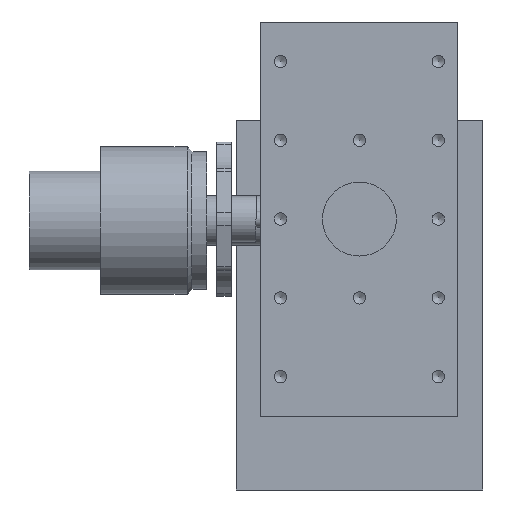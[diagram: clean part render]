
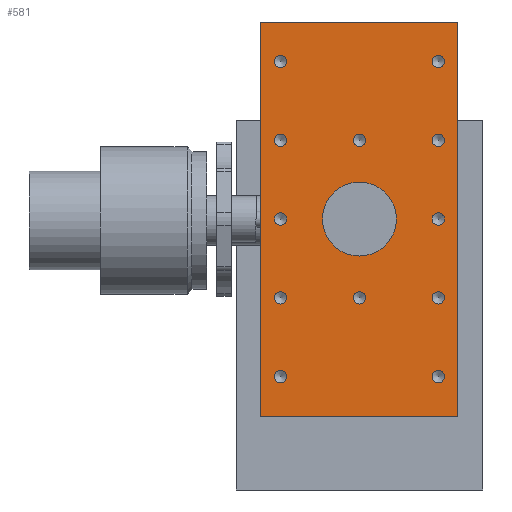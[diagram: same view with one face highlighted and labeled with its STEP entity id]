
A CAD part, front view. The second image highlights one B-rep face of the part: STEP entity #581.
In plain terms, the highlighted planar face has unit normal (0, -1, 0).
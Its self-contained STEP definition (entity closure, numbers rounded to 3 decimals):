
#581 = ADVANCED_FACE( '', ( #1225, #1226, #1227, #1228, #1229, #1230, #1231, #1232, #1233, #1234, #1235, #1236, #1237, #1238 ), #1239, .T. );
#1225 = FACE_OUTER_BOUND( '', #1892, .T. );
#1226 = FACE_BOUND( '', #1893, .T. );
#1227 = FACE_BOUND( '', #1894, .T. );
#1228 = FACE_BOUND( '', #1895, .T. );
#1229 = FACE_BOUND( '', #1896, .T. );
#1230 = FACE_BOUND( '', #1897, .T. );
#1231 = FACE_BOUND( '', #1898, .T. );
#1232 = FACE_BOUND( '', #1899, .T. );
#1233 = FACE_BOUND( '', #1900, .T. );
#1234 = FACE_BOUND( '', #1901, .T. );
#1235 = FACE_BOUND( '', #1902, .T. );
#1236 = FACE_BOUND( '', #1903, .T. );
#1237 = FACE_BOUND( '', #1904, .T. );
#1238 = FACE_BOUND( '', #1905, .T. );
#1239 = PLANE( '', #1906 );
#1892 = EDGE_LOOP( '', ( #3406, #3407, #3408, #3409 ) );
#1893 = EDGE_LOOP( '', ( #3410 ) );
#1894 = EDGE_LOOP( '', ( #3411 ) );
#1895 = EDGE_LOOP( '', ( #3412 ) );
#1896 = EDGE_LOOP( '', ( #3413 ) );
#1897 = EDGE_LOOP( '', ( #3414 ) );
#1898 = EDGE_LOOP( '', ( #3415 ) );
#1899 = EDGE_LOOP( '', ( #3416 ) );
#1900 = EDGE_LOOP( '', ( #3417 ) );
#1901 = EDGE_LOOP( '', ( #3418 ) );
#1902 = EDGE_LOOP( '', ( #3419 ) );
#1903 = EDGE_LOOP( '', ( #3420 ) );
#1904 = EDGE_LOOP( '', ( #3421 ) );
#1905 = EDGE_LOOP( '', ( #3422 ) );
#1906 = AXIS2_PLACEMENT_3D( '', #3423, #3424, #3425 );
#3406 = ORIENTED_EDGE( '', *, *, #4035, .F. );
#3407 = ORIENTED_EDGE( '', *, *, #3812, .F. );
#3408 = ORIENTED_EDGE( '', *, *, #3743, .F. );
#3409 = ORIENTED_EDGE( '', *, *, #3807, .T. );
#3410 = ORIENTED_EDGE( '', *, *, #3700, .T. );
#3411 = ORIENTED_EDGE( '', *, *, #3843, .T. );
#3412 = ORIENTED_EDGE( '', *, *, #4005, .T. );
#3413 = ORIENTED_EDGE( '', *, *, #3697, .T. );
#3414 = ORIENTED_EDGE( '', *, *, #4007, .T. );
#3415 = ORIENTED_EDGE( '', *, *, #3804, .T. );
#3416 = ORIENTED_EDGE( '', *, *, #3768, .T. );
#3417 = ORIENTED_EDGE( '', *, *, #3709, .T. );
#3418 = ORIENTED_EDGE( '', *, *, #4095, .T. );
#3419 = ORIENTED_EDGE( '', *, *, #4014, .T. );
#3420 = ORIENTED_EDGE( '', *, *, #3510, .T. );
#3421 = ORIENTED_EDGE( '', *, *, #4077, .T. );
#3422 = ORIENTED_EDGE( '', *, *, #3809, .T. );
#3423 = CARTESIAN_POINT( '', ( -25., -59., 55. ) );
#3424 = DIRECTION( '', ( 0., -1., 0. ) );
#3425 = DIRECTION( '', ( 0., 0., -1. ) );
#3510 = EDGE_CURVE( '', #4116, #4116, #4117, .T. );
#3697 = EDGE_CURVE( '', #4424, #4424, #4425, .T. );
#3700 = EDGE_CURVE( '', #4429, #4429, #4430, .T. );
#3709 = EDGE_CURVE( '', #4444, #4444, #4445, .T. );
#3743 = EDGE_CURVE( '', #4499, #4501, #4502, .T. );
#3768 = EDGE_CURVE( '', #4542, #4542, #4543, .T. );
#3804 = EDGE_CURVE( '', #4599, #4599, #4600, .T. );
#3807 = EDGE_CURVE( '', #4499, #4602, #4604, .T. );
#3809 = EDGE_CURVE( '', #4606, #4606, #4607, .T. );
#3812 = EDGE_CURVE( '', #4501, #4611, #4612, .T. );
#3843 = EDGE_CURVE( '', #4656, #4656, #4657, .T. );
#4005 = EDGE_CURVE( '', #4880, #4880, #4881, .T. );
#4007 = EDGE_CURVE( '', #4883, #4883, #4884, .T. );
#4014 = EDGE_CURVE( '', #4892, #4892, #4893, .T. );
#4035 = EDGE_CURVE( '', #4611, #4602, #4915, .T. );
#4077 = EDGE_CURVE( '', #4962, #4962, #4963, .T. );
#4095 = EDGE_CURVE( '', #4979, #4979, #4980, .T. );
#4116 = VERTEX_POINT( '', #5002 );
#4117 = CIRCLE( '', #5003, 1.25 );
#4424 = VERTEX_POINT( '', #5667 );
#4425 = CIRCLE( '', #5668, 1.25 );
#4429 = VERTEX_POINT( '', #5672 );
#4430 = CIRCLE( '', #5673, 7.5 );
#4444 = VERTEX_POINT( '', #5693 );
#4445 = CIRCLE( '', #5694, 1.25 );
#4499 = VERTEX_POINT( '', #5763 );
#4501 = VERTEX_POINT( '', #5766 );
#4502 = LINE( '', #5767, #5768 );
#4542 = VERTEX_POINT( '', #5825 );
#4543 = CIRCLE( '', #5826, 1.25 );
#4599 = VERTEX_POINT( '', #5902 );
#4600 = CIRCLE( '', #5903, 1.25 );
#4602 = VERTEX_POINT( '', #5905 );
#4604 = LINE( '', #5908, #5909 );
#4606 = VERTEX_POINT( '', #5911 );
#4607 = CIRCLE( '', #5912, 1.25 );
#4611 = VERTEX_POINT( '', #5916 );
#4612 = LINE( '', #5917, #5918 );
#4656 = VERTEX_POINT( '', #5976 );
#4657 = CIRCLE( '', #5977, 1.25 );
#4880 = VERTEX_POINT( '', #6281 );
#4881 = CIRCLE( '', #6282, 1.25 );
#4883 = VERTEX_POINT( '', #6284 );
#4884 = CIRCLE( '', #6285, 1.25 );
#4892 = VERTEX_POINT( '', #6293 );
#4893 = CIRCLE( '', #6294, 1.25 );
#4915 = LINE( '', #6321, #6322 );
#4962 = VERTEX_POINT( '', #6386 );
#4963 = CIRCLE( '', #6387, 1.25 );
#4979 = VERTEX_POINT( '', #6408 );
#4980 = CIRCLE( '', #6409, 1.25 );
#5002 = CARTESIAN_POINT( '', ( -10.25, -59., 71. ) );
#5003 = AXIS2_PLACEMENT_3D( '', #6431, #6432, #6433 );
#5667 = CARTESIAN_POINT( '', ( -42.25, -59., 71. ) );
#5668 = AXIS2_PLACEMENT_3D( '', #6660, #6661, #6662 );
#5672 = CARTESIAN_POINT( '', ( -32.5, -59., 55. ) );
#5673 = AXIS2_PLACEMENT_3D( '', #6666, #6667, #6668 );
#5693 = CARTESIAN_POINT( '', ( -10.25, -59., 23. ) );
#5694 = AXIS2_PLACEMENT_3D( '', #6675, #6676, #6677 );
#5763 = CARTESIAN_POINT( '', ( -5., -59., 15. ) );
#5766 = CARTESIAN_POINT( '', ( -45., -59., 15. ) );
#5767 = CARTESIAN_POINT( '', ( -25., -59., 15. ) );
#5768 = VECTOR( '', #6718, 1000. );
#5825 = CARTESIAN_POINT( '', ( -42.25, -59., 23. ) );
#5826 = AXIS2_PLACEMENT_3D( '', #6742, #6743, #6744 );
#5902 = CARTESIAN_POINT( '', ( -42.25, -59., 39. ) );
#5903 = AXIS2_PLACEMENT_3D( '', #6780, #6781, #6782 );
#5905 = CARTESIAN_POINT( '', ( -5., -59., 95. ) );
#5908 = CARTESIAN_POINT( '', ( -5., -59., 55. ) );
#5909 = VECTOR( '', #6784, 1000. );
#5911 = CARTESIAN_POINT( '', ( -26.25, -59., 39. ) );
#5912 = AXIS2_PLACEMENT_3D( '', #6785, #6786, #6787 );
#5916 = CARTESIAN_POINT( '', ( -45., -59., 95. ) );
#5917 = CARTESIAN_POINT( '', ( -45., -59., 55. ) );
#5918 = VECTOR( '', #6791, 1000. );
#5976 = CARTESIAN_POINT( '', ( -10.25, -59., 87. ) );
#5977 = AXIS2_PLACEMENT_3D( '', #6827, #6828, #6829 );
#6281 = CARTESIAN_POINT( '', ( -42.25, -59., 87. ) );
#6282 = AXIS2_PLACEMENT_3D( '', #7007, #7008, #7009 );
#6284 = CARTESIAN_POINT( '', ( -42.25, -59., 55. ) );
#6285 = AXIS2_PLACEMENT_3D( '', #7010, #7011, #7012 );
#6293 = CARTESIAN_POINT( '', ( -10.25, -59., 55. ) );
#6294 = AXIS2_PLACEMENT_3D( '', #7019, #7020, #7021 );
#6321 = CARTESIAN_POINT( '', ( -25., -59., 95. ) );
#6322 = VECTOR( '', #7039, 1000. );
#6386 = CARTESIAN_POINT( '', ( -26.25, -59., 71. ) );
#6387 = AXIS2_PLACEMENT_3D( '', #7069, #7070, #7071 );
#6408 = CARTESIAN_POINT( '', ( -10.25, -59., 39. ) );
#6409 = AXIS2_PLACEMENT_3D( '', #7077, #7078, #7079 );
#6431 = CARTESIAN_POINT( '', ( -9., -59., 71. ) );
#6432 = DIRECTION( '', ( 0., 1., 0. ) );
#6433 = DIRECTION( '', ( -1., 0., 0. ) );
#6660 = CARTESIAN_POINT( '', ( -41., -59., 71. ) );
#6661 = DIRECTION( '', ( 0., 1., 0. ) );
#6662 = DIRECTION( '', ( -1., 0., 0. ) );
#6666 = CARTESIAN_POINT( '', ( -25., -59., 55. ) );
#6667 = DIRECTION( '', ( 0., 1., 0. ) );
#6668 = DIRECTION( '', ( -1., 0., 0. ) );
#6675 = CARTESIAN_POINT( '', ( -9., -59., 23. ) );
#6676 = DIRECTION( '', ( 0., 1., 0. ) );
#6677 = DIRECTION( '', ( -1., 0., 0. ) );
#6718 = DIRECTION( '', ( -1., 0., 0. ) );
#6742 = CARTESIAN_POINT( '', ( -41., -59., 23. ) );
#6743 = DIRECTION( '', ( 0., 1., 0. ) );
#6744 = DIRECTION( '', ( -1., 0., 0. ) );
#6780 = CARTESIAN_POINT( '', ( -41., -59., 39. ) );
#6781 = DIRECTION( '', ( 0., 1., 0. ) );
#6782 = DIRECTION( '', ( -1., 0., 0. ) );
#6784 = DIRECTION( '', ( 0., 0., 1. ) );
#6785 = CARTESIAN_POINT( '', ( -25., -59., 39. ) );
#6786 = DIRECTION( '', ( 0., 1., 0. ) );
#6787 = DIRECTION( '', ( -1., 0., 0. ) );
#6791 = DIRECTION( '', ( 0., 0., 1. ) );
#6827 = CARTESIAN_POINT( '', ( -9., -59., 87. ) );
#6828 = DIRECTION( '', ( 0., 1., 0. ) );
#6829 = DIRECTION( '', ( -1., 0., 0. ) );
#7007 = CARTESIAN_POINT( '', ( -41., -59., 87. ) );
#7008 = DIRECTION( '', ( 0., 1., 0. ) );
#7009 = DIRECTION( '', ( -1., 0., 0. ) );
#7010 = CARTESIAN_POINT( '', ( -41., -59., 55. ) );
#7011 = DIRECTION( '', ( 0., 1., 0. ) );
#7012 = DIRECTION( '', ( -1., 0., 0. ) );
#7019 = CARTESIAN_POINT( '', ( -9., -59., 55. ) );
#7020 = DIRECTION( '', ( 0., 1., 0. ) );
#7021 = DIRECTION( '', ( -1., 0., 0. ) );
#7039 = DIRECTION( '', ( 1., 0., 0. ) );
#7069 = CARTESIAN_POINT( '', ( -25., -59., 71. ) );
#7070 = DIRECTION( '', ( 0., 1., 0. ) );
#7071 = DIRECTION( '', ( -1., 0., 0. ) );
#7077 = CARTESIAN_POINT( '', ( -9., -59., 39. ) );
#7078 = DIRECTION( '', ( 0., 1., 0. ) );
#7079 = DIRECTION( '', ( -1., 0., 0. ) );
